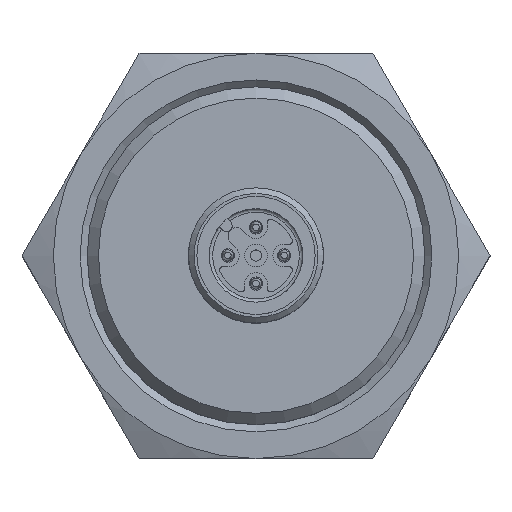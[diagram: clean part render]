
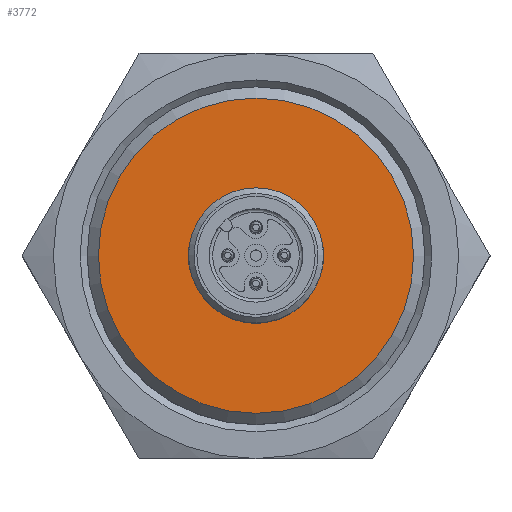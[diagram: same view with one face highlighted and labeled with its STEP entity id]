
A CAD part, top view. The second image highlights one B-rep face of the part: STEP entity #3772.
In plain terms, the highlighted planar face has unit normal (0, 0, 1).
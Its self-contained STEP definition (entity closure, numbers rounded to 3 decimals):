
#3210=CARTESIAN_POINT('',(6.,0.,30.0));
#3211=VERTEX_POINT('',#3210);
#3212=CARTESIAN_POINT('',(0.0,0.0,30.0));
#3213=DIRECTION('',(0.0,0.0,-1.0));
#3214=DIRECTION('',(-1.0,0.0,0.0));
#3215=AXIS2_PLACEMENT_3D('',#3212,#3213,#3214);
#3216=CIRCLE('',#3215,6.);
#3217=EDGE_CURVE('',#3211,#3211,#3216,.T.);
#3746=CARTESIAN_POINT('',(14.0,0.,30.0));
#3747=VERTEX_POINT('',#3746);
#3748=CARTESIAN_POINT('',(0.0,0.0,30.0));
#3749=DIRECTION('',(0.0,0.0,-1.0));
#3750=DIRECTION('',(-1.0,0.0,0.0));
#3751=AXIS2_PLACEMENT_3D('',#3748,#3749,#3750);
#3752=CIRCLE('',#3751,14.0);
#3753=EDGE_CURVE('',#3747,#3747,#3752,.T.);
#3761=CARTESIAN_POINT('',(0.0,0.0,30.0));
#3762=DIRECTION('',(0.0,0.0,-1.0));
#3763=DIRECTION('',(-1.0,0.0,0.0));
#3764=AXIS2_PLACEMENT_3D('',#3761,#3762,#3763);
#3765=PLANE('',#3764);
#3766=ORIENTED_EDGE('',*,*,#3753,.F.);
#3767=EDGE_LOOP('',(#3766));
#3768=FACE_OUTER_BOUND('',#3767,.T.);
#3769=ORIENTED_EDGE('',*,*,#3217,.T.);
#3770=EDGE_LOOP('',(#3769));
#3771=FACE_BOUND('',#3770,.T.);
#3772=ADVANCED_FACE('',(#3768,#3771),#3765,.F.);
